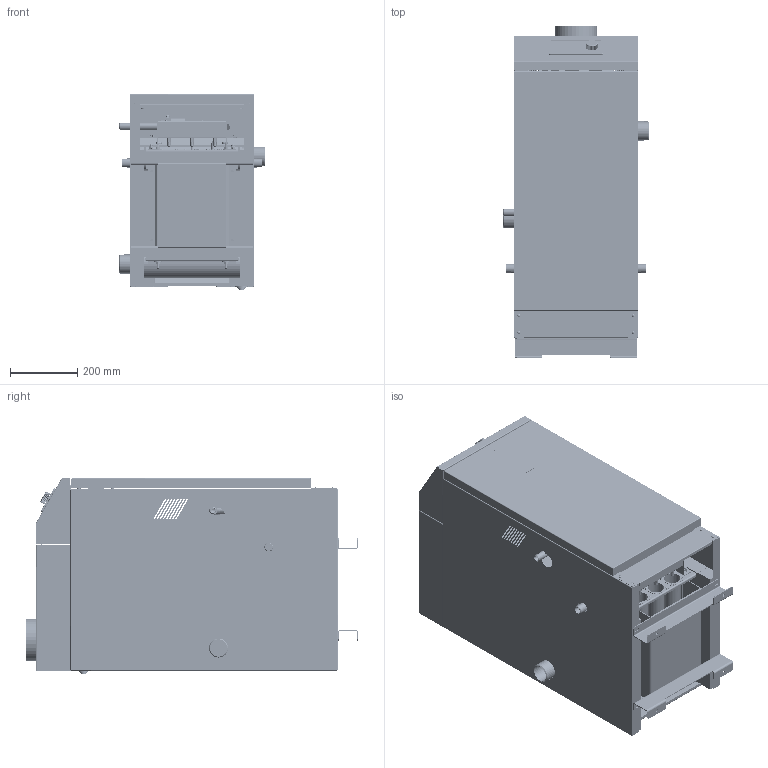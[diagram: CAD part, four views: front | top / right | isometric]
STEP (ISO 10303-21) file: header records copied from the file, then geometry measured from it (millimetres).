
FILE_DESCRIPTION(('STEP AP242'), '1');
FILE_NAME('ﾒﾈﾒﾀﾍ 2016', '', ('UNSPECIFIED'), ('UNSPECIFIED'), 'ASCON STEP Converter 1.6', 'ASCON Math Kernel', '');
FILE_SCHEMA(('AP242_MANAGED_MODEL_BASED_3D_ENGINEERING_MIM_LF { 1 0 10303 442 1 1 4 }'));
Length unit declared in the file: millimetre
Products named in the file (115): КЕВМ.3105.00.00.000-11; КЕВМ.3105.01.00.000-01; -01; КЕВМ.3103.01.01.002-01; КЕВМ.3103.01.02.001; КЕВМ.3103.01.02.003-01; КЕВМ.3103.01.02.004; КЕВМ.3103.01.02.007; Клапан манометра 1_2'''' х 1_4''''; Колба защитная; Заглушка Ду50; Кран маевского; Заглушка Ду15; КЕВМ.3105.02.00.000-01; КЕВМ.3105.02.00.003; КЕВМ.3105.02.01.004-01; VTr.090.N.0004; -03; КЕВМ.3105.02.00.001-01; КЕВМ.3105.02.01.000-01; ШАЙБА под форсунки; КЕВМ.3105.02.01.004; КЕВМ.3103.02.01.002; КЕВМ.3105.02.01.001-01; КЕВМ.3105.02.00.002-01; -21; КЕВМ.3105.00.00.003-01; КЕВМ.3105.00.00.002-01; КЕВМ.3105.00.00.004-01; Термостат аварийный IMIT; Колпачек термостата; Значек нет тчги 10х10; Значек закипание 10х10; КЕВМ.3105.04.00.000-11; КЕВМ.3105.04.00.001-11; КЕВМ.3105.04.01.000; КЕВМ.3105.04.01.001; КЕВМ.3105.04.01.002; -02; -04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
Assembly tree (199 placements, depth 5):
  КЕВМ.3105.00.00.000-11
    КЕВМ.3105.01.00.000-01
      -01
      -01
        -01
        КЕВМ.3103.01.01.002-01  x2
      -01
        -01
        (unnamed)
        КЕВМ.3103.01.02.001
        -01
        -01
        КЕВМ.3103.01.02.003-01
        КЕВМ.3103.01.02.004
        КЕВМ.3103.01.02.007
      -01
      -01
      (unnamed)
      -01
      Клапан манометра 1_2'''' х 1_4''''
      Колба защитная
      Заглушка Ду50  x2
      (unnamed)  x2
      (unnamed)  x2
      (unnamed)  x4
      (unnamed)  x6
      (unnamed)  x2
      (unnamed)  x2
      Кран маевского
      Заглушка Ду15
    КЕВМ.3105.02.00.000-01
      КЕВМ.3105.02.00.003
      (unnamed)
      КЕВМ.3105.02.01.004-01
      (unnamed)  x2
      (unnamed)  x4
      VTr.090.N.0004
      (unnamed)  x12
      -01
      (unnamed)
        (unnamed)
      (unnamed)  x2
      (unnamed)  x2
      -03  x3
      (unnamed)
      (unnamed)
      КЕВМ.3105.02.00.001-01
      КЕВМ.3105.02.01.000-01
        (unnamed)  x3
          (unnamed)
          ШАЙБА под форсунки
        (unnamed)
        КЕВМ.3105.02.01.004
        КЕВМ.3103.02.01.002  x2
        КЕВМ.3105.02.01.001-01
      (unnamed)  x2
      КЕВМ.3105.02.00.002-01
      (unnamed)
    (unnamed)  x2
    -21
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Bounding box: 435 x 986 x 583.81 mm (x, y, z)
Volume: 65004043.7 mm3; surface area: 9822930.6 mm2
Topology: 220 solids, 220 shells, 6889 faces, 17302 edges, 11180 vertices
Faces by surface type: plane 4102, cylinder 2108, bspline 268, cone 178, torus 107, extrusion 72, sphere 54
Full cylindrical faces by diameter (mm): 0.7 x396, 1 x1, 1.5 x8, 2 x9, 2.5 x13, 2.7 x4, 2.9 x21, 3 x34, 3.2 x32, 3.242 x1, 3.3 x8, 3.5 x24, 4 x42, 4.2 x10, 4.4 x1, 4.5 x12, 4.7 x1, 5 x14, 5.6 x17, 5.8 x1, 6 x9, 6.647 x10, 6.917 x4, 6.95 x2, 7 x6, 7.8 x2, 8 x36, 8.5 x4, 9 x27, 9.2 x2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
Entity records: 186225 total; most frequent: CARTESIAN_POINT 62316, DIRECTION 21367, ORIENTED_EDGE 21142, EDGE_CURVE 10571, AXIS2_PLACEMENT_3D 7188, VERTEX_POINT 7115, VECTOR 6991, LINE 6919
